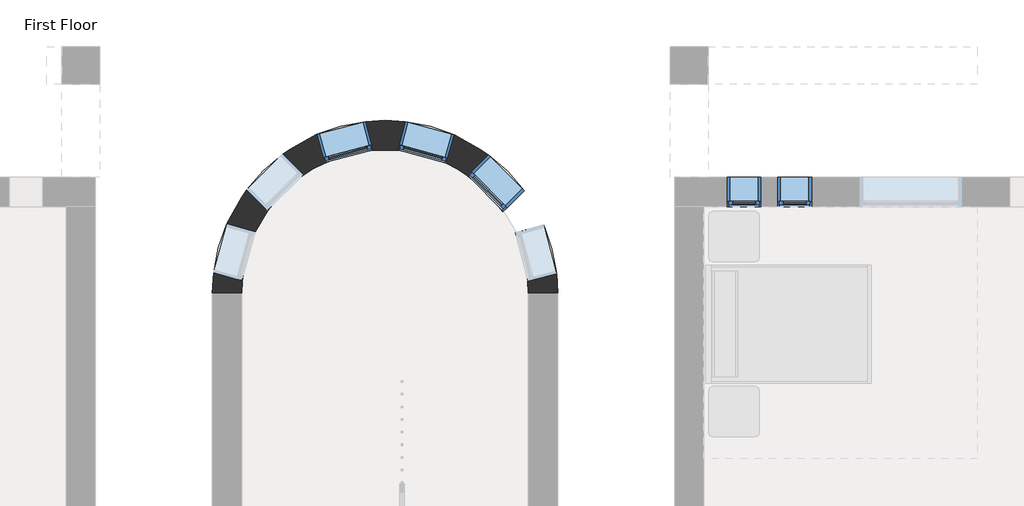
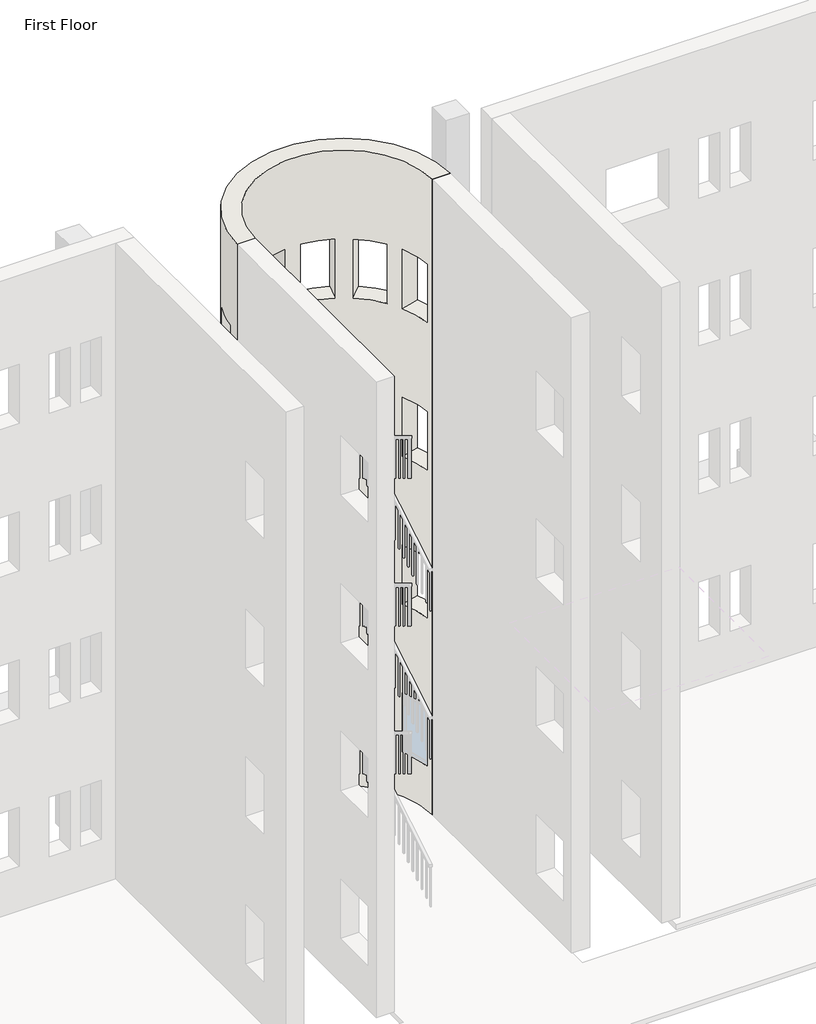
# One storey, part 17 of 23: 5 windows, 1 wall.
"""IFC4 building model written with IfcOpenShell, lengths in millimetres."""

from ifc_helpers import new_model, si_unit, frame, origin, place, context, project, spatial, polyline, circle_curve, transform, mapped, element, save
from ifc_brep_helpers import plane_surface, cylinder_surface, revolved_surface, advanced_brep
from components import window_da97879f, window_60baf983

model = new_model("IFC4")

# Units and contexts
model_context = context("Model", 3, world=origin())
ifc_project = project(units=[si_unit("LENGTHUNIT", "METRE", prefix="MILLI")], contexts=[model_context])

# Site, building, storey
site = spatial("IfcSite", under=ifc_project)
building = spatial("IfcBuilding", under=site)
storey = spatial("IfcBuildingStorey", under=building, Name="First Floor", Elevation=0.0)

# Wall
placement = place(None, origin())
element("IfcWall", 1, ObjectType="Exterior - Brick on Mtl. Stud", at=placement, inside=storey, context=model_context, shape_type="AdvancedBrep", body=[
    advanced_brep(
    [(-12980.9589563, 9227.0316867, 13106.4), (-17143.3839563, 9227.0316867, 13106.4), (-16790.9589563, 9227.0316867, 13106.4), (-13333.3839563, 9227.0316867, 13106.4), (-17143.3839563, 9227.0316867, 0.0), (-12980.9589563, 9227.0316867, 0.0), (-13333.3839563, 9227.0316867, 0.0), (-16790.9589563, 9227.0316867, 0.0), (-13149.9261748, 10048.4715527, 8229.6), (-13149.9261748, 10048.4715527, 7010.4), (-12993.9452701, 9459.1650812, 7010.4), (-12993.9452701, 9459.1650812, 8229.6), (-13816.8383973, 10894.5421191, 8229.6), (-13816.8383973, 10894.5421191, 7010.4), (-13387.1017356, 10462.1781965, 7010.4), (-13387.1017356, 10462.1781965, 8229.6), (-14817.4366072, 11293.8046118, 8229.6), (-14817.4366072, 11293.8046118, 7010.4), (-14229.0917799, 11134.234802, 7010.4), (-14229.0917799, 11134.234802, 8229.6), (-15883.6113224, 11139.2769682, 8229.6), (-15883.6113224, 11139.2769682, 7010.4), (-15294.3048508, 11295.2578729, 7010.4), (-15294.3048508, 11295.2578729, 8229.6), (-16729.6818887, 10472.3647457, 8229.6), (-16729.6818887, 10472.3647457, 7010.4), (-16297.3179661, 10902.1014074, 7010.4), (-16297.3179661, 10902.1014074, 8229.6), (-17128.9443814, 9471.7665358, 8229.6), (-17128.9443814, 9471.7665358, 7010.4), (-16969.3745716, 10060.1113631, 7010.4), (-16969.3745716, 10060.1113631, 8229.6), (-13149.9261748, 10048.4715527, 5181.6), (-13149.9261748, 10048.4715527, 3962.4), (-12993.9452701, 9459.1650812, 3962.4), (-12993.9452701, 9459.1650812, 5181.6), (-13816.8383973, 10894.5421191, 5181.6), (-13816.8383973, 10894.5421191, 3962.4), (-13387.1017356, 10462.1781965, 3962.4), (-13387.1017356, 10462.1781965, 5181.6), (-14817.4366072, 11293.8046118, 5181.6), (-14817.4366072, 11293.8046118, 3962.4), (-14229.0917799, 11134.234802, 3962.4), (-14229.0917799, 11134.234802, 5181.6), (-15883.6113224, 11139.2769682, 5181.6), (-15883.6113224, 11139.2769682, 3962.4), (-15294.3048508, 11295.2578729, 3962.4), (-15294.3048508, 11295.2578729, 5181.6), (-16729.6818887, 10472.3647457, 5181.6), (-16729.6818887, 10472.3647457, 3962.4), (-16297.3179661, 10902.1014074, 3962.4), (-16297.3179661, 10902.1014074, 5181.6), (-17128.9443814, 9471.7665358, 5181.6), (-17128.9443814, 9471.7665358, 3962.4), (-16969.3745716, 10060.1113631, 3962.4), (-16969.3745716, 10060.1113631, 5181.6), (-13149.9261748, 10048.4715527, 11277.6), (-13149.9261748, 10048.4715527, 10058.4), (-12993.9452701, 9459.1650812, 10058.4), (-12993.9452701, 9459.1650812, 11277.6), (-13816.8383973, 10894.5421191, 11277.6), (-13816.8383973, 10894.5421191, 10058.4), (-13387.1017356, 10462.1781965, 10058.4), (-13387.1017356, 10462.1781965, 11277.6), (-14817.4366072, 11293.8046118, 11277.6), (-14817.4366072, 11293.8046118, 10058.4), (-14229.0917799, 11134.234802, 10058.4), (-14229.0917799, 11134.234802, 11277.6), (-15883.6113224, 11139.2769682, 11277.6), (-15883.6113224, 11139.2769682, 10058.4), (-15294.3048508, 11295.2578729, 10058.4), (-15294.3048508, 11295.2578729, 11277.6), (-16729.6818887, 10472.3647457, 11277.6), (-16729.6818887, 10472.3647457, 10058.4), (-16297.3179661, 10902.1014074, 10058.4), (-16297.3179661, 10902.1014074, 11277.6), (-17128.9443814, 9471.7665358, 11277.6), (-17128.9443814, 9471.7665358, 10058.4), (-16969.3745716, 10060.1113631, 10058.4), (-16969.3745716, 10060.1113631, 11277.6), (-13149.9261748, 10048.4715527, 2133.6), (-13149.9261748, 10048.4715527, 914.4), (-12993.9452701, 9459.1650812, 914.4), (-12993.9452701, 9459.1650812, 2133.6), (-13816.8383973, 10894.5421191, 2133.6), (-13816.8383973, 10894.5421191, 914.4), (-13387.1017356, 10462.1781965, 914.4), (-13387.1017356, 10462.1781965, 2133.6), (-14817.4366072, 11293.8046118, 2133.6), (-14817.4366072, 11293.8046118, 914.4), (-14229.0917799, 11134.234802, 914.4), (-14229.0917799, 11134.234802, 2133.6), (-15883.6113224, 11139.2769682, 2133.6), (-15883.6113224, 11139.2769682, 914.4), (-15294.3048508, 11295.2578729, 914.4), (-15294.3048508, 11295.2578729, 2133.6), (-16729.6818887, 10472.3647457, 2133.6), (-16729.6818887, 10472.3647457, 914.4), (-16297.3179661, 10902.1014074, 914.4), (-16297.3179661, 10902.1014074, 2133.6), (-17128.9443814, 9471.7665358, 914.4), (-16969.3745716, 10060.1113631, 914.4), (-16969.3745716, 10060.1113631, 2133.6), (-17128.9443814, 9471.7665358, 2133.6), (-13495.1055834, 9957.1075528, 7010.4), (-13495.1055834, 9957.1075528, 8229.6), (-13339.1246787, 9367.8010813, 8229.6), (-13339.1246787, 9367.8010813, 7010.4), (-14070.090534, 10642.8288698, 7010.4), (-14070.090534, 10642.8288698, 8229.6), (-13640.3538723, 10210.4649472, 8229.6), (-13640.3538723, 10210.4649472, 7010.4), (-14910.9027666, 10949.188475, 7010.4), (-14910.9027666, 10949.188475, 8229.6), (-14322.5579393, 10789.6186653, 8229.6), (-14322.5579393, 10789.6186653, 7010.4), (-15792.2473224, 10794.0975596, 7010.4), (-15792.2473224, 10794.0975596, 8229.6), (-15202.9408509, 10950.0784643, 8229.6), (-15202.9408509, 10950.0784643, 7010.4), (-16477.9686395, 10219.112609, 7010.4), (-16477.9686395, 10219.112609, 8229.6), (-16045.6047169, 10648.8492707, 8229.6), (-16045.6047169, 10648.8492707, 7010.4), (-16784.3282447, 9378.3003764, 7010.4), (-16784.3282447, 9378.3003764, 8229.6), (-16624.7584349, 9966.6452037, 8229.6), (-16624.7584349, 9966.6452037, 7010.4), (-13495.1055834, 9957.1075528, 3962.4), (-13495.1055834, 9957.1075528, 5181.6), (-13339.1246787, 9367.8010813, 5181.6), (-13339.1246787, 9367.8010813, 3962.4), (-14070.090534, 10642.8288698, 3962.4), (-14070.090534, 10642.8288698, 5181.6), (-13640.3538723, 10210.4649472, 5181.6), (-13640.3538723, 10210.4649472, 3962.4), (-14910.9027666, 10949.188475, 3962.4), (-14910.9027666, 10949.188475, 5181.6), (-14322.5579393, 10789.6186653, 5181.6), (-14322.5579393, 10789.6186653, 3962.4), (-15792.2473224, 10794.0975596, 3962.4), (-15792.2473224, 10794.0975596, 5181.6), (-15202.9408509, 10950.0784643, 5181.6), (-15202.9408509, 10950.0784643, 3962.4), (-16477.9686395, 10219.112609, 3962.4), (-16477.9686395, 10219.112609, 5181.6), (-16045.6047169, 10648.8492707, 5181.6), (-16045.6047169, 10648.8492707, 3962.4), (-16784.3282447, 9378.3003764, 3962.4), (-16784.3282447, 9378.3003764, 5181.6), (-16624.7584349, 9966.6452037, 5181.6), (-16624.7584349, 9966.6452037, 3962.4), (-13495.1055834, 9957.1075528, 10058.4), (-13495.1055834, 9957.1075528, 11277.6), (-13339.1246787, 9367.8010813, 11277.6), (-13339.1246787, 9367.8010813, 10058.4), (-14070.090534, 10642.8288698, 10058.4), (-14070.090534, 10642.8288698, 11277.6), (-13640.3538723, 10210.4649472, 11277.6), (-13640.3538723, 10210.4649472, 10058.4), (-14910.9027666, 10949.188475, 10058.4), (-14910.9027666, 10949.188475, 11277.6), (-14322.5579393, 10789.6186653, 11277.6), (-14322.5579393, 10789.6186653, 10058.4), (-15792.2473224, 10794.0975596, 10058.4), (-15792.2473224, 10794.0975596, 11277.6), (-15202.9408509, 10950.0784643, 11277.6), (-15202.9408509, 10950.0784643, 10058.4), (-16477.9686395, 10219.112609, 10058.4), (-16477.9686395, 10219.112609, 11277.6), (-16045.6047169, 10648.8492707, 11277.6), (-16045.6047169, 10648.8492707, 10058.4), (-16784.3282447, 9378.3003764, 10058.4), (-16784.3282447, 9378.3003764, 11277.6), (-16624.7584349, 9966.6452037, 11277.6), (-16624.7584349, 9966.6452037, 10058.4), (-13495.1055834, 9957.1075528, 914.4), (-13495.1055834, 9957.1075528, 2133.6), (-13339.1246787, 9367.8010813, 2133.6), (-13339.1246787, 9367.8010813, 914.4), (-14070.090534, 10642.8288698, 914.4), (-14070.090534, 10642.8288698, 2133.6), (-13640.3538723, 10210.4649472, 2133.6), (-13640.3538723, 10210.4649472, 914.4), (-14910.9027666, 10949.188475, 914.4), (-14910.9027666, 10949.188475, 2133.6), (-14322.5579393, 10789.6186653, 2133.6), (-14322.5579393, 10789.6186653, 914.4), (-15792.2473224, 10794.0975596, 914.4), (-15792.2473224, 10794.0975596, 2133.6), (-15202.9408509, 10950.0784643, 2133.6), (-15202.9408509, 10950.0784643, 914.4), (-16477.9686395, 10219.112609, 914.4), (-16477.9686395, 10219.112609, 2133.6), (-16045.6047169, 10648.8492707, 2133.6), (-16045.6047169, 10648.8492707, 914.4), (-16624.7584349, 9966.6452037, 914.4), (-16784.3282447, 9378.3003764, 914.4), (-16784.3282447, 9378.3003764, 2133.6), (-16624.7584349, 9966.6452037, 2133.6)],
    [
        (0, 1, circle_curve(frame((-15062.1714563, 9227.0316867, 13106.4), z_axis=(0.0, 0.0, 1.0), x_axis=(1.0, 0.0, 0.0)), 2081.2125)),
        (1, 2),
        (2, 3, circle_curve(frame((-15062.1714563, 9227.0316867, 13106.4), z_axis=(0.0, 0.0, -1.0), x_axis=(1.0, 0.0, 0.0)), 1728.7875)),
        (3, 0),
        (4, 5, circle_curve(frame((-15062.1714563, 9227.0316867, 0.0), z_axis=(0.0, 0.0, -1.0), x_axis=(1.0, 0.0, 0.0)), 2081.2125)),
        (5, 6),
        (6, 7, circle_curve(frame((-15062.1714563, 9227.0316867, 0.0), z_axis=(0.0, 0.0, 1.0), x_axis=(1.0, 0.0, 0.0)), 1728.7875)),
        (7, 4),
        (0, 5),
        (4, 1),
        (8, 9),
        (9, 10, circle_curve(frame((-15062.1714563, 9227.0316867, 7010.4), z_axis=(0.0, 0.0, -1.0), x_axis=(1.0, 0.0, 0.0)), 2081.2125)),
        (10, 11),
        (11, 8, circle_curve(frame((-15062.1714563, 9227.0316867, 8229.6), z_axis=(0.0, 0.0, 1.0), x_axis=(1.0, 0.0, 0.0)), 2081.2125)),
        (12, 13),
        (13, 14, circle_curve(frame((-15062.1714563, 9227.0316867, 7010.4), z_axis=(0.0, 0.0, -1.0), x_axis=(1.0, 0.0, 0.0)), 2081.2125)),
        (14, 15),
        (15, 12, circle_curve(frame((-15062.1714563, 9227.0316867, 8229.6), z_axis=(0.0, 0.0, 1.0), x_axis=(1.0, 0.0, 0.0)), 2081.2125)),
        (16, 17),
        (17, 18, circle_curve(frame((-15062.1714563, 9227.0316867, 7010.4), z_axis=(0.0, 0.0, -1.0), x_axis=(1.0, 0.0, 0.0)), 2081.2125)),
        (18, 19),
        (19, 16, circle_curve(frame((-15062.1714563, 9227.0316867, 8229.6), z_axis=(0.0, 0.0, 1.0), x_axis=(1.0, 0.0, 0.0)), 2081.2125)),
        (20, 21),
        (21, 22, circle_curve(frame((-15062.1714563, 9227.0316867, 7010.4), z_axis=(0.0, 0.0, -1.0), x_axis=(1.0, 0.0, 0.0)), 2081.2125)),
        (22, 23),
        (23, 20, circle_curve(frame((-15062.1714563, 9227.0316867, 8229.6), z_axis=(0.0, 0.0, 1.0), x_axis=(1.0, 0.0, 0.0)), 2081.2125)),
        (24, 25),
        (25, 26, circle_curve(frame((-15062.1714563, 9227.0316867, 7010.4), z_axis=(0.0, 0.0, -1.0), x_axis=(1.0, 0.0, 0.0)), 2081.2125)),
        (26, 27),
        (27, 24, circle_curve(frame((-15062.1714563, 9227.0316867, 8229.6), z_axis=(0.0, 0.0, 1.0), x_axis=(1.0, 0.0, 0.0)), 2081.2125)),
        (28, 29),
        (29, 30, circle_curve(frame((-15062.1714563, 9227.0316867, 7010.4), z_axis=(0.0, 0.0, -1.0), x_axis=(1.0, 0.0, 0.0)), 2081.2125)),
        (30, 31),
        (31, 28, circle_curve(frame((-15062.1714563, 9227.0316867, 8229.6), z_axis=(0.0, 0.0, 1.0), x_axis=(1.0, 0.0, 0.0)), 2081.2125)),
        (32, 33),
        (33, 34, circle_curve(frame((-15062.1714563, 9227.0316867, 3962.4), z_axis=(0.0, 0.0, -1.0), x_axis=(1.0, 0.0, 0.0)), 2081.2125)),
        (34, 35),
        (35, 32, circle_curve(frame((-15062.1714563, 9227.0316867, 5181.6), z_axis=(0.0, 0.0, 1.0), x_axis=(1.0, 0.0, 0.0)), 2081.2125)),
        (36, 37),
        (37, 38, circle_curve(frame((-15062.1714563, 9227.0316867, 3962.4), z_axis=(0.0, 0.0, -1.0), x_axis=(1.0, 0.0, 0.0)), 2081.2125)),
        (38, 39),
        (39, 36, circle_curve(frame((-15062.1714563, 9227.0316867, 5181.6), z_axis=(0.0, 0.0, 1.0), x_axis=(1.0, 0.0, 0.0)), 2081.2125)),
        (40, 41),
        (41, 42, circle_curve(frame((-15062.1714563, 9227.0316867, 3962.4), z_axis=(0.0, 0.0, -1.0), x_axis=(1.0, 0.0, 0.0)), 2081.2125)),
        (42, 43),
        (43, 40, circle_curve(frame((-15062.1714563, 9227.0316867, 5181.6), z_axis=(0.0, 0.0, 1.0), x_axis=(1.0, 0.0, 0.0)), 2081.2125)),
        (44, 45),
        (45, 46, circle_curve(frame((-15062.1714563, 9227.0316867, 3962.4), z_axis=(0.0, 0.0, -1.0), x_axis=(1.0, 0.0, 0.0)), 2081.2125)),
        (46, 47),
        (47, 44, circle_curve(frame((-15062.1714563, 9227.0316867, 5181.6), z_axis=(0.0, 0.0, 1.0), x_axis=(1.0, 0.0, 0.0)), 2081.2125)),
        (48, 49),
        (49, 50, circle_curve(frame((-15062.1714563, 9227.0316867, 3962.4), z_axis=(0.0, 0.0, -1.0), x_axis=(1.0, 0.0, 0.0)), 2081.2125)),
        (50, 51),
        (51, 48, circle_curve(frame((-15062.1714563, 9227.0316867, 5181.6), z_axis=(0.0, 0.0, 1.0), x_axis=(1.0, 0.0, 0.0)), 2081.2125)),
        (52, 53),
        (53, 54, circle_curve(frame((-15062.1714563, 9227.0316867, 3962.4), z_axis=(0.0, 0.0, -1.0), x_axis=(1.0, 0.0, 0.0)), 2081.2125)),
        (54, 55),
        (55, 52, circle_curve(frame((-15062.1714563, 9227.0316867, 5181.6), z_axis=(0.0, 0.0, 1.0), x_axis=(1.0, 0.0, 0.0)), 2081.2125)),
        (56, 57),
        (57, 58, circle_curve(frame((-15062.1714563, 9227.0316867, 10058.4), z_axis=(0.0, 0.0, -1.0), x_axis=(1.0, 0.0, 0.0)), 2081.2125)),
        (58, 59),
        (59, 56, circle_curve(frame((-15062.1714563, 9227.0316867, 11277.6), z_axis=(0.0, 0.0, 1.0), x_axis=(1.0, 0.0, 0.0)), 2081.2125)),
        (60, 61),
        (61, 62, circle_curve(frame((-15062.1714563, 9227.0316867, 10058.4), z_axis=(0.0, 0.0, -1.0), x_axis=(1.0, 0.0, 0.0)), 2081.2125)),
        (62, 63),
        (63, 60, circle_curve(frame((-15062.1714563, 9227.0316867, 11277.6), z_axis=(0.0, 0.0, 1.0), x_axis=(1.0, 0.0, 0.0)), 2081.2125)),
        (64, 65),
        (65, 66, circle_curve(frame((-15062.1714563, 9227.0316867, 10058.4), z_axis=(0.0, 0.0, -1.0), x_axis=(1.0, 0.0, 0.0)), 2081.2125)),
        (66, 67),
        (67, 64, circle_curve(frame((-15062.1714563, 9227.0316867, 11277.6), z_axis=(0.0, 0.0, 1.0), x_axis=(1.0, 0.0, 0.0)), 2081.2125)),
        (68, 69),
        (69, 70, circle_curve(frame((-15062.1714563, 9227.0316867, 10058.4), z_axis=(0.0, 0.0, -1.0), x_axis=(1.0, 0.0, 0.0)), 2081.2125)),
        (70, 71),
        (71, 68, circle_curve(frame((-15062.1714563, 9227.0316867, 11277.6), z_axis=(0.0, 0.0, 1.0), x_axis=(1.0, 0.0, 0.0)), 2081.2125)),
        (72, 73),
        (73, 74, circle_curve(frame((-15062.1714563, 9227.0316867, 10058.4), z_axis=(0.0, 0.0, -1.0), x_axis=(1.0, 0.0, 0.0)), 2081.2125)),
        (74, 75),
        (75, 72, circle_curve(frame((-15062.1714563, 9227.0316867, 11277.6), z_axis=(0.0, 0.0, 1.0), x_axis=(1.0, 0.0, 0.0)), 2081.2125)),
        (76, 77),
        (77, 78, circle_curve(frame((-15062.1714563, 9227.0316867, 10058.4), z_axis=(0.0, 0.0, -1.0), x_axis=(1.0, 0.0, 0.0)), 2081.2125)),
        (78, 79),
        (79, 76, circle_curve(frame((-15062.1714563, 9227.0316867, 11277.6), z_axis=(0.0, 0.0, 1.0), x_axis=(1.0, 0.0, 0.0)), 2081.2125)),
        (80, 81),
        (81, 82, circle_curve(frame((-15062.1714563, 9227.0316867, 914.4), z_axis=(0.0, 0.0, -1.0), x_axis=(1.0, 0.0, 0.0)), 2081.2125)),
        (82, 83),
        (83, 80, circle_curve(frame((-15062.1714563, 9227.0316867, 2133.6), z_axis=(0.0, 0.0, 1.0), x_axis=(1.0, 0.0, 0.0)), 2081.2125)),
        (84, 85),
        (85, 86, circle_curve(frame((-15062.1714563, 9227.0316867, 914.4), z_axis=(0.0, 0.0, -1.0), x_axis=(1.0, 0.0, 0.0)), 2081.2125)),
        (86, 87),
        (87, 84, circle_curve(frame((-15062.1714563, 9227.0316867, 2133.6), z_axis=(0.0, 0.0, 1.0), x_axis=(1.0, 0.0, 0.0)), 2081.2125)),
        (88, 89),
        (89, 90, circle_curve(frame((-15062.1714563, 9227.0316867, 914.4), z_axis=(0.0, 0.0, -1.0), x_axis=(1.0, 0.0, 0.0)), 2081.2125)),
        (90, 91),
        (91, 88, circle_curve(frame((-15062.1714563, 9227.0316867, 2133.6), z_axis=(0.0, 0.0, 1.0), x_axis=(1.0, 0.0, 0.0)), 2081.2125)),
        (92, 93),
        (93, 94, circle_curve(frame((-15062.1714563, 9227.0316867, 914.4), z_axis=(0.0, 0.0, -1.0), x_axis=(1.0, 0.0, 0.0)), 2081.2125)),
        (94, 95),
        (95, 92, circle_curve(frame((-15062.1714563, 9227.0316867, 2133.6), z_axis=(0.0, 0.0, 1.0), x_axis=(1.0, 0.0, 0.0)), 2081.2125)),
        (96, 97),
        (97, 98, circle_curve(frame((-15062.1714563, 9227.0316867, 914.4), z_axis=(0.0, 0.0, -1.0), x_axis=(1.0, 0.0, 0.0)), 2081.2125)),
        (98, 99),
        (99, 96, circle_curve(frame((-15062.1714563, 9227.0316867, 2133.6), z_axis=(0.0, 0.0, 1.0), x_axis=(1.0, 0.0, 0.0)), 2081.2125)),
        (100, 101, circle_curve(frame((-15062.1714563, 9227.0316867, 914.4), z_axis=(0.0, 0.0, -1.0), x_axis=(1.0, 0.0, 0.0)), 2081.2125)),
        (101, 102),
        (102, 103, circle_curve(frame((-15062.1714563, 9227.0316867, 2133.6), z_axis=(0.0, 0.0, 1.0), x_axis=(1.0, 0.0, 0.0)), 2081.2125)),
        (103, 100),
        (7, 2),
        (6, 3),
        (104, 105),
        (105, 106, circle_curve(frame((-15062.1714563, 9227.0316867, 8229.6), z_axis=(0.0, 0.0, -1.0), x_axis=(1.0, 0.0, 0.0)), 1728.7875)),
        (106, 107),
        (107, 104, circle_curve(frame((-15062.1714563, 9227.0316867, 7010.4), z_axis=(0.0, 0.0, 1.0), x_axis=(1.0, 0.0, 0.0)), 1728.7875)),
        (108, 109),
        (109, 110, circle_curve(frame((-15062.1714563, 9227.0316867, 8229.6), z_axis=(0.0, 0.0, -1.0), x_axis=(1.0, 0.0, 0.0)), 1728.7875)),
        (110, 111),
        (111, 108, circle_curve(frame((-15062.1714563, 9227.0316867, 7010.4), z_axis=(0.0, 0.0, 1.0), x_axis=(1.0, 0.0, 0.0)), 1728.7875)),
        (112, 113),
        (113, 114, circle_curve(frame((-15062.1714563, 9227.0316867, 8229.6), z_axis=(0.0, 0.0, -1.0), x_axis=(1.0, 0.0, 0.0)), 1728.7875)),
        (114, 115),
        (115, 112, circle_curve(frame((-15062.1714563, 9227.0316867, 7010.4), z_axis=(0.0, 0.0, 1.0), x_axis=(1.0, 0.0, 0.0)), 1728.7875)),
        (116, 117),
        (117, 118, circle_curve(frame((-15062.1714563, 9227.0316867, 8229.6), z_axis=(0.0, 0.0, -1.0), x_axis=(1.0, 0.0, 0.0)), 1728.7875)),
        (118, 119),
        (119, 116, circle_curve(frame((-15062.1714563, 9227.0316867, 7010.4), z_axis=(0.0, 0.0, 1.0), x_axis=(1.0, 0.0, 0.0)), 1728.7875)),
        (120, 121),
        (121, 122, circle_curve(frame((-15062.1714563, 9227.0316867, 8229.6), z_axis=(0.0, 0.0, -1.0), x_axis=(1.0, 0.0, 0.0)), 1728.7875)),
        (122, 123),
        (123, 120, circle_curve(frame((-15062.1714563, 9227.0316867, 7010.4), z_axis=(0.0, 0.0, 1.0), x_axis=(1.0, 0.0, 0.0)), 1728.7875)),
        (124, 125),
        (125, 126, circle_curve(frame((-15062.1714563, 9227.0316867, 8229.6), z_axis=(0.0, 0.0, -1.0), x_axis=(1.0, 0.0, 0.0)), 1728.7875)),
        (126, 127),
        (127, 124, circle_curve(frame((-15062.1714563, 9227.0316867, 7010.4), z_axis=(0.0, 0.0, 1.0), x_axis=(1.0, 0.0, 0.0)), 1728.7875)),
        (128, 129),
        (129, 130, circle_curve(frame((-15062.1714563, 9227.0316867, 5181.6), z_axis=(0.0, 0.0, -1.0), x_axis=(1.0, 0.0, 0.0)), 1728.7875)),
        (130, 131),
        (131, 128, circle_curve(frame((-15062.1714563, 9227.0316867, 3962.4), z_axis=(0.0, 0.0, 1.0), x_axis=(1.0, 0.0, 0.0)), 1728.7875)),
        (132, 133),
        (133, 134, circle_curve(frame((-15062.1714563, 9227.0316867, 5181.6), z_axis=(0.0, 0.0, -1.0), x_axis=(1.0, 0.0, 0.0)), 1728.7875)),
        (134, 135),
        (135, 132, circle_curve(frame((-15062.1714563, 9227.0316867, 3962.4), z_axis=(0.0, 0.0, 1.0), x_axis=(1.0, 0.0, 0.0)), 1728.7875)),
        (136, 137),
        (137, 138, circle_curve(frame((-15062.1714563, 9227.0316867, 5181.6), z_axis=(0.0, 0.0, -1.0), x_axis=(1.0, 0.0, 0.0)), 1728.7875)),
        (138, 139),
        (139, 136, circle_curve(frame((-15062.1714563, 9227.0316867, 3962.4), z_axis=(0.0, 0.0, 1.0), x_axis=(1.0, 0.0, 0.0)), 1728.7875)),
        (140, 141),
        (141, 142, circle_curve(frame((-15062.1714563, 9227.0316867, 5181.6), z_axis=(0.0, 0.0, -1.0), x_axis=(1.0, 0.0, 0.0)), 1728.7875)),
        (142, 143),
        (143, 140, circle_curve(frame((-15062.1714563, 9227.0316867, 3962.4), z_axis=(0.0, 0.0, 1.0), x_axis=(1.0, 0.0, 0.0)), 1728.7875)),
        (144, 145),
        (145, 146, circle_curve(frame((-15062.1714563, 9227.0316867, 5181.6), z_axis=(0.0, 0.0, -1.0), x_axis=(1.0, 0.0, 0.0)), 1728.7875)),
        (146, 147),
        (147, 144, circle_curve(frame((-15062.1714563, 9227.0316867, 3962.4), z_axis=(0.0, 0.0, 1.0), x_axis=(1.0, 0.0, 0.0)), 1728.7875)),
        (148, 149),
        (149, 150, circle_curve(frame((-15062.1714563, 9227.0316867, 5181.6), z_axis=(0.0, 0.0, -1.0), x_axis=(1.0, 0.0, 0.0)), 1728.7875)),
        (150, 151),
        (151, 148, circle_curve(frame((-15062.1714563, 9227.0316867, 3962.4), z_axis=(0.0, 0.0, 1.0), x_axis=(1.0, 0.0, 0.0)), 1728.7875)),
        (152, 153),
        (153, 154, circle_curve(frame((-15062.1714563, 9227.0316867, 11277.6), z_axis=(0.0, 0.0, -1.0), x_axis=(1.0, 0.0, 0.0)), 1728.7875)),
        (154, 155),
        (155, 152, circle_curve(frame((-15062.1714563, 9227.0316867, 10058.4), z_axis=(0.0, 0.0, 1.0), x_axis=(1.0, 0.0, 0.0)), 1728.7875)),
        (156, 157),
        (157, 158, circle_curve(frame((-15062.1714563, 9227.0316867, 11277.6), z_axis=(0.0, 0.0, -1.0), x_axis=(1.0, 0.0, 0.0)), 1728.7875)),
        (158, 159),
        (159, 156, circle_curve(frame((-15062.1714563, 9227.0316867, 10058.4), z_axis=(0.0, 0.0, 1.0), x_axis=(1.0, 0.0, 0.0)), 1728.7875)),
        (160, 161),
        (161, 162, circle_curve(frame((-15062.1714563, 9227.0316867, 11277.6), z_axis=(0.0, 0.0, -1.0), x_axis=(1.0, 0.0, 0.0)), 1728.7875)),
        (162, 163),
        (163, 160, circle_curve(frame((-15062.1714563, 9227.0316867, 10058.4), z_axis=(0.0, 0.0, 1.0), x_axis=(1.0, 0.0, 0.0)), 1728.7875)),
        (164, 165),
        (165, 166, circle_curve(frame((-15062.1714563, 9227.0316867, 11277.6), z_axis=(0.0, 0.0, -1.0), x_axis=(1.0, 0.0, 0.0)), 1728.7875)),
        (166, 167),
        (167, 164, circle_curve(frame((-15062.1714563, 9227.0316867, 10058.4), z_axis=(0.0, 0.0, 1.0), x_axis=(1.0, 0.0, 0.0)), 1728.7875)),
        (168, 169),
        (169, 170, circle_curve(frame((-15062.1714563, 9227.0316867, 11277.6), z_axis=(0.0, 0.0, -1.0), x_axis=(1.0, 0.0, 0.0)), 1728.7875)),
        (170, 171),
        (171, 168, circle_curve(frame((-15062.1714563, 9227.0316867, 10058.4), z_axis=(0.0, 0.0, 1.0), x_axis=(1.0, 0.0, 0.0)), 1728.7875)),
        (172, 173),
        (173, 174, circle_curve(frame((-15062.1714563, 9227.0316867, 11277.6), z_axis=(0.0, 0.0, -1.0), x_axis=(1.0, 0.0, 0.0)), 1728.7875)),
        (174, 175),
        (175, 172, circle_curve(frame((-15062.1714563, 9227.0316867, 10058.4), z_axis=(0.0, 0.0, 1.0), x_axis=(1.0, 0.0, 0.0)), 1728.7875)),
        (176, 177),
        (177, 178, circle_curve(frame((-15062.1714563, 9227.0316867, 2133.6), z_axis=(0.0, 0.0, -1.0), x_axis=(1.0, 0.0, 0.0)), 1728.7875)),
        (178, 179),
        (179, 176, circle_curve(frame((-15062.1714563, 9227.0316867, 914.4), z_axis=(0.0, 0.0, 1.0), x_axis=(1.0, 0.0, 0.0)), 1728.7875)),
        (180, 181),
        (181, 182, circle_curve(frame((-15062.1714563, 9227.0316867, 2133.6), z_axis=(0.0, 0.0, -1.0), x_axis=(1.0, 0.0, 0.0)), 1728.7875)),
        (182, 183),
        (183, 180, circle_curve(frame((-15062.1714563, 9227.0316867, 914.4), z_axis=(0.0, 0.0, 1.0), x_axis=(1.0, 0.0, 0.0)), 1728.7875)),
        (184, 185),
        (185, 186, circle_curve(frame((-15062.1714563, 9227.0316867, 2133.6), z_axis=(0.0, 0.0, -1.0), x_axis=(1.0, 0.0, 0.0)), 1728.7875)),
        (186, 187),
        (187, 184, circle_curve(frame((-15062.1714563, 9227.0316867, 914.4), z_axis=(0.0, 0.0, 1.0), x_axis=(1.0, 0.0, 0.0)), 1728.7875)),
        (188, 189),
        (189, 190, circle_curve(frame((-15062.1714563, 9227.0316867, 2133.6), z_axis=(0.0, 0.0, -1.0), x_axis=(1.0, 0.0, 0.0)), 1728.7875)),
        (190, 191),
        (191, 188, circle_curve(frame((-15062.1714563, 9227.0316867, 914.4), z_axis=(0.0, 0.0, 1.0), x_axis=(1.0, 0.0, 0.0)), 1728.7875)),
        (192, 193),
        (193, 194, circle_curve(frame((-15062.1714563, 9227.0316867, 2133.6), z_axis=(0.0, 0.0, -1.0), x_axis=(1.0, 0.0, 0.0)), 1728.7875)),
        (194, 195),
        (195, 192, circle_curve(frame((-15062.1714563, 9227.0316867, 914.4), z_axis=(0.0, 0.0, 1.0), x_axis=(1.0, 0.0, 0.0)), 1728.7875)),
        (196, 197, circle_curve(frame((-15062.1714563, 9227.0316867, 914.4), z_axis=(0.0, 0.0, 1.0), x_axis=(1.0, 0.0, 0.0)), 1728.7875)),
        (197, 198),
        (198, 199, circle_curve(frame((-15062.1714563, 9227.0316867, 2133.6), z_axis=(0.0, 0.0, -1.0), x_axis=(1.0, 0.0, 0.0)), 1728.7875)),
        (199, 196),
        (8, 105),
        (104, 9),
        (107, 10),
        (106, 11),
        (12, 109),
        (108, 13),
        (111, 14),
        (110, 15),
        (16, 113),
        (112, 17),
        (115, 18),
        (114, 19),
        (20, 117),
        (116, 21),
        (119, 22),
        (118, 23),
        (24, 121),
        (120, 25),
        (123, 26),
        (122, 27),
        (28, 125),
        (124, 29),
        (127, 30),
        (126, 31),
        (32, 129),
        (128, 33),
        (131, 34),
        (130, 35),
        (36, 133),
        (132, 37),
        (135, 38),
        (134, 39),
        (40, 137),
        (136, 41),
        (139, 42),
        (138, 43),
        (44, 141),
        (140, 45),
        (143, 46),
        (142, 47),
        (48, 145),
        (144, 49),
        (147, 50),
        (146, 51),
        (52, 149),
        (148, 53),
        (151, 54),
        (150, 55),
        (56, 153),
        (152, 57),
        (155, 58),
        (154, 59),
        (60, 157),
        (156, 61),
        (159, 62),
        (158, 63),
        (64, 161),
        (160, 65),
        (163, 66),
        (162, 67),
        (68, 165),
        (164, 69),
        (167, 70),
        (166, 71),
        (72, 169),
        (168, 73),
        (171, 74),
        (170, 75),
        (76, 173),
        (172, 77),
        (175, 78),
        (174, 79),
        (80, 177),
        (176, 81),
        (179, 82),
        (178, 83),
        (84, 181),
        (180, 85),
        (183, 86),
        (182, 87),
        (88, 185),
        (184, 89),
        (187, 90),
        (186, 91),
        (92, 189),
        (188, 93),
        (191, 94),
        (190, 95),
        (96, 193),
        (192, 97),
        (195, 98),
        (194, 99),
        (197, 100),
        (103, 198),
        (196, 101),
        (199, 102),
    ],
    [
        plane_surface(frame((-12980.9589563, 9227.0316867, 13106.4), z_axis=(0.0, 0.0, 1.0), x_axis=(0.0, 1.0, 0.0))),
        plane_surface(frame((-12980.9589563, 9227.0316867, 0.0), z_axis=(0.0, 0.0, -1.0), x_axis=(0.0, -1.0, 0.0))),
        cylinder_surface(frame((-15062.1714563, 9227.0316867, 0.0), z_axis=(0.0, 0.0, 1.0), x_axis=(1.0, 0.0, 0.0)), 2081.2125),
        plane_surface(frame((-17143.3839563, 9227.0316867, 13106.4), z_axis=(0.0, -1.0, 0.0), x_axis=(0.0, 0.0, -1.0))),
        revolved_surface(polyline([(-13333.3839563, 9227.0316867, 0.0), (-13333.3839563, 9227.0316867, 13106.4)]), (-15062.1714563, 9227.0316867, 0.0), (0.0, 0.0, -1.0)),
        plane_surface(frame((-13333.3839563, 9227.0316867, 13106.4), z_axis=(0.0, -1.0, 0.0), x_axis=(0.0, 0.0, -1.0))),
        plane_surface(frame((-13149.9261748, 10048.4715527, 8229.6), z_axis=(0.2558741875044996, -0.9667100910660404, 0.0), x_axis=(-0.9667100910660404, -0.2558741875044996, 0.0))),
        plane_surface(frame((-13149.9261748, 10048.4715527, 7010.4), z_axis=(0.0, 0.0, 1.0), x_axis=(-0.9667100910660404, -0.2558741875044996, 0.0))),
        plane_surface(frame((-12993.9452701, 9459.1650812, 7010.4), z_axis=(-0.2558741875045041, 0.9667100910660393, 0.0), x_axis=(-0.9667100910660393, -0.2558741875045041, 0.0))),
        plane_surface(frame((-12993.9452701, 9459.1650812, 8229.6), z_axis=(0.0, 0.0, -1.0000000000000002), x_axis=(-0.9667100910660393, -0.2558741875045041, 0.0))),
        plane_surface(frame((-13816.8383973, 10894.5421191, 8229.6), z_axis=(0.7049485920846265, -0.7092584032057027, 0.0), x_axis=(-0.7092584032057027, -0.7049485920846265, 0.0))),
        plane_surface(frame((-13816.8383973, 10894.5421191, 7010.4), z_axis=(0.0, 0.0, 1.0000000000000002), x_axis=(-0.7092584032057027, -0.7049485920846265, 0.0))),
        plane_surface(frame((-13387.1017356, 10462.1781965, 7010.4), z_axis=(-0.7049485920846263, 0.7092584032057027, 0.0), x_axis=(-0.7092584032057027, -0.7049485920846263, 0.0))),
        plane_surface(frame((-13387.1017356, 10462.1781965, 8229.6), z_axis=(0.0, 0.0, -1.0000000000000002), x_axis=(-0.7092584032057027, -0.7049485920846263, 0.0))),
        plane_surface(frame((-14817.4366072, 11293.8046118, 8229.6), z_axis=(0.9651325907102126, -0.26176149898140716, 0.0), x_axis=(-0.26176149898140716, -0.9651325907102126, 0.0))),
        plane_surface(frame((-14817.4366072, 11293.8046118, 7010.4), z_axis=(0.0, 0.0, 1.0), x_axis=(-0.26176149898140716, -0.9651325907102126, 0.0))),
        plane_surface(frame((-14229.0917799, 11134.234802, 7010.4), z_axis=(-0.965132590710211, 0.2617614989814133, 0.0), x_axis=(-0.2617614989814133, -0.965132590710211, 0.0))),
        plane_surface(frame((-14229.0917799, 11134.234802, 8229.6), z_axis=(0.0, 0.0, -1.0), x_axis=(-0.2617614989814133, -0.965132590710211, 0.0))),
        plane_surface(frame((-15883.6113224, 11139.2769682, 8229.6), z_axis=(0.9667100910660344, 0.25587418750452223, 0.0), x_axis=(0.25587418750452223, -0.9667100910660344, 0.0))),
        plane_surface(frame((-15883.6113224, 11139.2769682, 7010.4), z_axis=(0.0, 0.0, 1.0), x_axis=(0.25587418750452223, -0.9667100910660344, 0.0))),
        plane_surface(frame((-15294.3048508, 11295.2578729, 7010.4), z_axis=(-0.9667100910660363, -0.25587418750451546, 0.0), x_axis=(0.25587418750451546, -0.9667100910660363, 0.0))),
        plane_surface(frame((-15294.3048508, 11295.2578729, 8229.6), z_axis=(0.0, 0.0, -1.0000000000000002), x_axis=(0.25587418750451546, -0.9667100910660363, 0.0))),
        plane_surface(frame((-16729.6818887, 10472.3647457, 8229.6), z_axis=(0.7092584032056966, 0.7049485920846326, 0.0), x_axis=(0.7049485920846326, -0.7092584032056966, 0.0))),
        plane_surface(frame((-16729.6818887, 10472.3647457, 7010.4), z_axis=(0.0, 0.0, 1.0), x_axis=(0.7049485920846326, -0.7092584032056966, 0.0))),
        plane_surface(frame((-16297.3179661, 10902.1014074, 7010.4), z_axis=(-0.7092584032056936, -0.7049485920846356, 0.0), x_axis=(0.7049485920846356, -0.7092584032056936, 0.0))),
        plane_surface(frame((-16297.3179661, 10902.1014074, 8229.6), z_axis=(0.0, 0.0, -1.0), x_axis=(0.7049485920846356, -0.7092584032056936, 0.0))),
        plane_surface(frame((-17128.9443814, 9471.7665358, 8229.6), z_axis=(0.26176149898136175, 0.965132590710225, 0.0), x_axis=(0.965132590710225, -0.26176149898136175, 0.0))),
        plane_surface(frame((-17128.9443814, 9471.7665358, 7010.4), z_axis=(0.0, 0.0, 1.0), x_axis=(0.9651325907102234, -0.2617614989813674, 0.0))),
        plane_surface(frame((-16969.3745716, 10060.1113631, 7010.4), z_axis=(-0.261761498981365, -0.9651325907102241, 0.0), x_axis=(0.9651325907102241, -0.261761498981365, 0.0))),
        plane_surface(frame((-16969.3745716, 10060.1113631, 8229.6), z_axis=(0.0, 0.0, -1.0), x_axis=(0.9651325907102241, -0.261761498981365, 0.0))),
        plane_surface(frame((-13149.9261748, 10048.4715527, 5181.6), z_axis=(0.2558741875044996, -0.9667100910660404, 0.0), x_axis=(-0.9667100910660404, -0.2558741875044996, 0.0))),
        plane_surface(frame((-13149.9261748, 10048.4715527, 3962.4), z_axis=(0.0, 0.0, 1.0), x_axis=(-0.9667100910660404, -0.2558741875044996, 0.0))),
        plane_surface(frame((-12993.9452701, 9459.1650812, 3962.4), z_axis=(-0.2558741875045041, 0.9667100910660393, 0.0), x_axis=(-0.9667100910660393, -0.2558741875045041, 0.0))),
        plane_surface(frame((-12993.9452701, 9459.1650812, 5181.6), z_axis=(0.0, 0.0, -1.0000000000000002), x_axis=(-0.9667100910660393, -0.2558741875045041, 0.0))),
        plane_surface(frame((-13816.8383973, 10894.5421191, 5181.6), z_axis=(0.7049485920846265, -0.7092584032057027, 0.0), x_axis=(-0.7092584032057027, -0.7049485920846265, 0.0))),
        plane_surface(frame((-13816.8383973, 10894.5421191, 3962.4), z_axis=(0.0, 0.0, 1.0000000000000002), x_axis=(-0.7092584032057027, -0.7049485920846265, 0.0))),
        plane_surface(frame((-13387.1017356, 10462.1781965, 3962.4), z_axis=(-0.7049485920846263, 0.7092584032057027, 0.0), x_axis=(-0.7092584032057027, -0.7049485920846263, 0.0))),
        plane_surface(frame((-13387.1017356, 10462.1781965, 5181.6), z_axis=(0.0, 0.0, -1.0000000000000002), x_axis=(-0.7092584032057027, -0.7049485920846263, 0.0))),
        plane_surface(frame((-14817.4366072, 11293.8046118, 5181.6), z_axis=(0.9651325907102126, -0.26176149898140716, 0.0), x_axis=(-0.26176149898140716, -0.9651325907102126, 0.0))),
        plane_surface(frame((-14817.4366072, 11293.8046118, 3962.4), z_axis=(0.0, 0.0, 1.0), x_axis=(-0.26176149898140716, -0.9651325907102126, 0.0))),
        plane_surface(frame((-14229.0917799, 11134.234802, 3962.4), z_axis=(-0.965132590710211, 0.2617614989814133, 0.0), x_axis=(-0.2617614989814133, -0.965132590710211, 0.0))),
        plane_surface(frame((-14229.0917799, 11134.234802, 5181.6), z_axis=(0.0, 0.0, -1.0), x_axis=(-0.2617614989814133, -0.965132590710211, 0.0))),
        plane_surface(frame((-15883.6113224, 11139.2769682, 5181.6), z_axis=(0.9667100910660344, 0.25587418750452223, 0.0), x_axis=(0.25587418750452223, -0.9667100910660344, 0.0))),
        plane_surface(frame((-15883.6113224, 11139.2769682, 3962.4), z_axis=(0.0, 0.0, 1.0), x_axis=(0.25587418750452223, -0.9667100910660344, 0.0))),
        plane_surface(frame((-15294.3048508, 11295.2578729, 3962.4), z_axis=(-0.9667100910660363, -0.25587418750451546, 0.0), x_axis=(0.25587418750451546, -0.9667100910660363, 0.0))),
        plane_surface(frame((-15294.3048508, 11295.2578729, 5181.6), z_axis=(0.0, 0.0, -1.0000000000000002), x_axis=(0.25587418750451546, -0.9667100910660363, 0.0))),
        plane_surface(frame((-16729.6818887, 10472.3647457, 5181.6), z_axis=(0.7092584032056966, 0.7049485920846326, 0.0), x_axis=(0.7049485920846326, -0.7092584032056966, 0.0))),
        plane_surface(frame((-16729.6818887, 10472.3647457, 3962.4), z_axis=(0.0, 0.0, 1.0), x_axis=(0.7049485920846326, -0.7092584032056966, 0.0))),
        plane_surface(frame((-16297.3179661, 10902.1014074, 3962.4), z_axis=(-0.7092584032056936, -0.7049485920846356, 0.0), x_axis=(0.7049485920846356, -0.7092584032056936, 0.0))),
        plane_surface(frame((-16297.3179661, 10902.1014074, 5181.6), z_axis=(0.0, 0.0, -1.0), x_axis=(0.7049485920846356, -0.7092584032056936, 0.0))),
        plane_surface(frame((-17128.9443814, 9471.7665358, 5181.6), z_axis=(0.26176149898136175, 0.965132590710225, 0.0), x_axis=(0.965132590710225, -0.26176149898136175, 0.0))),
        plane_surface(frame((-17128.9443814, 9471.7665358, 3962.4), z_axis=(0.0, 0.0, 1.0), x_axis=(0.9651325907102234, -0.2617614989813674, 0.0))),
        plane_surface(frame((-16969.3745716, 10060.1113631, 3962.4), z_axis=(-0.261761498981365, -0.9651325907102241, 0.0), x_axis=(0.9651325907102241, -0.261761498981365, 0.0))),
        plane_surface(frame((-16969.3745716, 10060.1113631, 5181.6), z_axis=(0.0, 0.0, -1.0), x_axis=(0.9651325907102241, -0.261761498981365, 0.0))),
        plane_surface(frame((-13149.9261748, 10048.4715527, 11277.6), z_axis=(0.2558741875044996, -0.9667100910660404, 0.0), x_axis=(-0.9667100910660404, -0.2558741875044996, 0.0))),
        plane_surface(frame((-13149.9261748, 10048.4715527, 10058.4), z_axis=(0.0, 0.0, 1.0), x_axis=(-0.9667100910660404, -0.2558741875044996, 0.0))),
        plane_surface(frame((-12993.9452701, 9459.1650812, 10058.4), z_axis=(-0.2558741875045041, 0.9667100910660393, 0.0), x_axis=(-0.9667100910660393, -0.2558741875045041, 0.0))),
        plane_surface(frame((-12993.9452701, 9459.1650812, 11277.6), z_axis=(0.0, 0.0, -1.0000000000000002), x_axis=(-0.9667100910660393, -0.2558741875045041, 0.0))),
        plane_surface(frame((-13816.8383973, 10894.5421191, 11277.6), z_axis=(0.7049485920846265, -0.7092584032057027, 0.0), x_axis=(-0.7092584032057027, -0.7049485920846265, 0.0))),
        plane_surface(frame((-13816.8383973, 10894.5421191, 10058.4), z_axis=(0.0, 0.0, 1.0000000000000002), x_axis=(-0.7092584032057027, -0.7049485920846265, 0.0))),
        plane_surface(frame((-13387.1017356, 10462.1781965, 10058.4), z_axis=(-0.7049485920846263, 0.7092584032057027, 0.0), x_axis=(-0.7092584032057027, -0.7049485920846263, 0.0))),
        plane_surface(frame((-13387.1017356, 10462.1781965, 11277.6), z_axis=(0.0, 0.0, -1.0000000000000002), x_axis=(-0.7092584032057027, -0.7049485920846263, 0.0))),
        plane_surface(frame((-14817.4366072, 11293.8046118, 11277.6), z_axis=(0.9651325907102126, -0.26176149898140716, 0.0), x_axis=(-0.26176149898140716, -0.9651325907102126, 0.0))),
        plane_surface(frame((-14817.4366072, 11293.8046118, 10058.4), z_axis=(0.0, 0.0, 1.0), x_axis=(-0.26176149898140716, -0.9651325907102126, 0.0))),
        plane_surface(frame((-14229.0917799, 11134.234802, 10058.4), z_axis=(-0.965132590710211, 0.2617614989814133, 0.0), x_axis=(-0.2617614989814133, -0.965132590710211, 0.0))),
        plane_surface(frame((-14229.0917799, 11134.234802, 11277.6), z_axis=(0.0, 0.0, -1.0), x_axis=(-0.2617614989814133, -0.965132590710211, 0.0))),
        plane_surface(frame((-15883.6113224, 11139.2769682, 11277.6), z_axis=(0.9667100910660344, 0.25587418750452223, 0.0), x_axis=(0.25587418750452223, -0.9667100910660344, 0.0))),
        plane_surface(frame((-15883.6113224, 11139.2769682, 10058.4), z_axis=(0.0, 0.0, 1.0), x_axis=(0.25587418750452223, -0.9667100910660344, 0.0))),
        plane_surface(frame((-15294.3048508, 11295.2578729, 10058.4), z_axis=(-0.9667100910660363, -0.25587418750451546, 0.0), x_axis=(0.25587418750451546, -0.9667100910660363, 0.0))),
        plane_surface(frame((-15294.3048508, 11295.2578729, 11277.6), z_axis=(0.0, 0.0, -1.0000000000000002), x_axis=(0.25587418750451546, -0.9667100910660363, 0.0))),
        plane_surface(frame((-16729.6818887, 10472.3647457, 11277.6), z_axis=(0.7092584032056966, 0.7049485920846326, 0.0), x_axis=(0.7049485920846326, -0.7092584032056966, 0.0))),
        plane_surface(frame((-16729.6818887, 10472.3647457, 10058.4), z_axis=(0.0, 0.0, 1.0), x_axis=(0.7049485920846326, -0.7092584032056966, 0.0))),
        plane_surface(frame((-16297.3179661, 10902.1014074, 10058.4), z_axis=(-0.7092584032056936, -0.7049485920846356, 0.0), x_axis=(0.7049485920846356, -0.7092584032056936, 0.0))),
        plane_surface(frame((-16297.3179661, 10902.1014074, 11277.6), z_axis=(0.0, 0.0, -1.0), x_axis=(0.7049485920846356, -0.7092584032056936, 0.0))),
        plane_surface(frame((-17128.9443814, 9471.7665358, 11277.6), z_axis=(0.26176149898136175, 0.965132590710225, 0.0), x_axis=(0.965132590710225, -0.26176149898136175, 0.0))),
        plane_surface(frame((-17128.9443814, 9471.7665358, 10058.4), z_axis=(0.0, 0.0, 1.0), x_axis=(0.9651325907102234, -0.2617614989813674, 0.0))),
        plane_surface(frame((-16969.3745716, 10060.1113631, 10058.4), z_axis=(-0.261761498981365, -0.9651325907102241, 0.0), x_axis=(0.9651325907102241, -0.261761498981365, 0.0))),
        plane_surface(frame((-16969.3745716, 10060.1113631, 11277.6), z_axis=(0.0, 0.0, -1.0), x_axis=(0.9651325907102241, -0.261761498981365, 0.0))),
        plane_surface(frame((-13149.9261748, 10048.4715527, 2133.6), z_axis=(0.2558741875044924, -0.9667100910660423, 0.0), x_axis=(-0.9667100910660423, -0.2558741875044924, 0.0))),
        plane_surface(frame((-13149.9261748, 10048.4715527, 914.4), z_axis=(0.0, 0.0, 1.0), x_axis=(-0.9667100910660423, -0.2558741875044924, 0.0))),
        plane_surface(frame((-12993.9452701, 9459.1650812, 914.4), z_axis=(-0.2558741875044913, 0.9667100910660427, 0.0), x_axis=(-0.9667100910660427, -0.2558741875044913, 0.0))),
        plane_surface(frame((-12993.9452701, 9459.1650812, 2133.6), z_axis=(0.0, 0.0, -1.0), x_axis=(-0.9667100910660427, -0.2558741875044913, 0.0))),
        plane_surface(frame((-13816.8383973, 10894.5421191, 2133.6), z_axis=(0.7049485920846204, -0.7092584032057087, 0.0), x_axis=(-0.7092584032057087, -0.7049485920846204, 0.0))),
        plane_surface(frame((-13816.8383973, 10894.5421191, 914.4), z_axis=(0.0, 0.0, 1.0000000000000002), x_axis=(-0.7092584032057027, -0.7049485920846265, 0.0))),
        plane_surface(frame((-13387.1017356, 10462.1781965, 914.4), z_axis=(-0.7049485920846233, 0.7092584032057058, 0.0), x_axis=(-0.7092584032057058, -0.7049485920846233, 0.0))),
        plane_surface(frame((-13387.1017356, 10462.1781965, 2133.6), z_axis=(0.0, 0.0, -1.0000000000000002), x_axis=(-0.7092584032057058, -0.7049485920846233, 0.0))),
        plane_surface(frame((-14817.4366072, 11293.8046118, 2133.6), z_axis=(0.9651325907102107, -0.2617614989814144, 0.0), x_axis=(-0.2617614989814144, -0.9651325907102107, 0.0))),
        plane_surface(frame((-14817.4366072, 11293.8046118, 914.4), z_axis=(0.0, 0.0, 1.0), x_axis=(-0.26176149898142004, -0.9651325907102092, 0.0))),
        plane_surface(frame((-14229.0917799, 11134.234802, 914.4), z_axis=(-0.9651325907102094, 0.2617614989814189, 0.0), x_axis=(-0.2617614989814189, -0.9651325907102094, 0.0))),
        plane_surface(frame((-14229.0917799, 11134.234802, 2133.6), z_axis=(0.0, 0.0, -1.0), x_axis=(-0.2617614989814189, -0.9651325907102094, 0.0))),
        plane_surface(frame((-15883.6113224, 11139.2769682, 2133.6), z_axis=(0.9667100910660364, 0.2558741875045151, 0.0), x_axis=(0.2558741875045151, -0.9667100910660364, 0.0))),
        plane_surface(frame((-15883.6113224, 11139.2769682, 914.4), z_axis=(0.0, 0.0, 1.0000000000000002), x_axis=(0.2558741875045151, -0.9667100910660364, 0.0))),
        plane_surface(frame((-15294.3048508, 11295.2578729, 914.4), z_axis=(-0.9667100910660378, -0.2558741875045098, 0.0), x_axis=(0.2558741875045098, -0.9667100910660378, 0.0))),
        plane_surface(frame((-15294.3048508, 11295.2578729, 2133.6), z_axis=(0.0, 0.0, -1.0), x_axis=(0.2558741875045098, -0.9667100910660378, 0.0))),
        plane_surface(frame((-15655.3402344, 9391.4549392, 2133.6), z_axis=(0.7092584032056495, 0.70494859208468, 0.0), x_axis=(-0.70494859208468, 0.7092584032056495, 0.0))),
        plane_surface(frame((-15655.3402344, 9391.4549392, 914.4), z_axis=(0.0, 0.0, 1.0), x_axis=(-0.70494859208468, 0.7092584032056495, 0.0))),
        plane_surface(frame((-15222.9763118, 9821.191601, 914.4), z_axis=(-0.7092584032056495, -0.70494859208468, 0.0), x_axis=(-0.70494859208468, 0.7092584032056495, 0.0))),
        plane_surface(frame((-15222.9763118, 9821.191601, 2133.6), z_axis=(0.0, 0.0, -1.0), x_axis=(-0.70494859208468, 0.7092584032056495, 0.0))),
        plane_surface(frame((-15658.0823131, 9072.8420113, 2133.6), z_axis=(0.26176149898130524, 0.9651325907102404, 0.0), x_axis=(-0.9651325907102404, 0.26176149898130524, 0.0))),
        plane_surface(frame((-15658.0823131, 9072.8420113, 914.4), z_axis=(0.0, 0.0, 1.0000000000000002), x_axis=(-0.9651325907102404, 0.26176149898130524, 0.0))),
        plane_surface(frame((-15498.5125034, 9661.1868386, 914.4), z_axis=(-0.26176149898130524, -0.9651325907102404, 0.0), x_axis=(-0.9651325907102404, 0.26176149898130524, 0.0))),
        plane_surface(frame((-15498.5125034, 9661.1868386, 2133.6), z_axis=(0.0, 0.0, -1.0000000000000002), x_axis=(-0.9651325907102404, 0.26176149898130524, 0.0))),
    ],
    [
        (0, [[1, 2, 3, 4]]),
        (1, [[5, 6, 7, 8]]),
        (2, [[-1, 9, -5, 10], [11, 12, 13, 14], [15, 16, 17, 18], [19, 20, 21, 22], [23, 24, 25, 26], [27, 28, 29, 30], [31, 32, 33, 34], [35, 36, 37, 38], [39, 40, 41, 42], [43, 44, 45, 46], [47, 48, 49, 50], [51, 52, 53, 54], [55, 56, 57, 58], [59, 60, 61, 62], [63, 64, 65, 66], [67, 68, 69, 70], [71, 72, 73, 74], [75, 76, 77, 78], [79, 80, 81, 82], [83, 84, 85, 86], [87, 88, 89, 90], [91, 92, 93, 94], [95, 96, 97, 98], [99, 100, 101, 102], [103, 104, 105, 106]]),
        (3, [[-2, -10, -8, 107]]),
        (4, [[-3, -107, -7, 108], [109, 110, 111, 112], [113, 114, 115, 116], [117, 118, 119, 120], [121, 122, 123, 124], [125, 126, 127, 128], [129, 130, 131, 132], [133, 134, 135, 136], [137, 138, 139, 140], [141, 142, 143, 144], [145, 146, 147, 148], [149, 150, 151, 152], [153, 154, 155, 156], [157, 158, 159, 160], [161, 162, 163, 164], [165, 166, 167, 168], [169, 170, 171, 172], [173, 174, 175, 176], [177, 178, 179, 180], [181, 182, 183, 184], [185, 186, 187, 188], [189, 190, 191, 192], [193, 194, 195, 196], [197, 198, 199, 200], [201, 202, 203, 204]]),
        (5, [[-4, -108, -6, -9]]),
        (6, [[-11, 205, -109, 206]]),
        (7, [[-12, -206, -112, 207]]),
        (8, [[-13, -207, -111, 208]]),
        (9, [[-14, -208, -110, -205]]),
        (10, [[-15, 209, -113, 210]]),
        (11, [[-16, -210, -116, 211]]),
        (12, [[-17, -211, -115, 212]]),
        (13, [[-18, -212, -114, -209]]),
        (14, [[-19, 213, -117, 214]]),
        (15, [[-20, -214, -120, 215]]),
        (16, [[-21, -215, -119, 216]]),
        (17, [[-22, -216, -118, -213]]),
        (18, [[-23, 217, -121, 218]]),
        (19, [[-24, -218, -124, 219]]),
        (20, [[-25, -219, -123, 220]]),
        (21, [[-26, -220, -122, -217]]),
        (22, [[-27, 221, -125, 222]]),
        (23, [[-28, -222, -128, 223]]),
        (24, [[-29, -223, -127, 224]]),
        (25, [[-30, -224, -126, -221]]),
        (26, [[-31, 225, -129, 226]]),
        (27, [[-32, -226, -132, 227]]),
        (28, [[-33, -227, -131, 228]]),
        (29, [[-34, -228, -130, -225]]),
        (30, [[-35, 229, -133, 230]]),
        (31, [[-36, -230, -136, 231]]),
        (32, [[-37, -231, -135, 232]]),
        (33, [[-38, -232, -134, -229]]),
        (34, [[-39, 233, -137, 234]]),
        (35, [[-40, -234, -140, 235]]),
        (36, [[-41, -235, -139, 236]]),
        (37, [[-42, -236, -138, -233]]),
        (38, [[-43, 237, -141, 238]]),
        (39, [[-44, -238, -144, 239]]),
        (40, [[-45, -239, -143, 240]]),
        (41, [[-46, -240, -142, -237]]),
        (42, [[-47, 241, -145, 242]]),
        (43, [[-48, -242, -148, 243]]),
        (44, [[-49, -243, -147, 244]]),
        (45, [[-50, -244, -146, -241]]),
        (46, [[-51, 245, -149, 246]]),
        (47, [[-52, -246, -152, 247]]),
        (48, [[-53, -247, -151, 248]]),
        (49, [[-54, -248, -150, -245]]),
        (50, [[-55, 249, -153, 250]]),
        (51, [[-56, -250, -156, 251]]),
        (52, [[-57, -251, -155, 252]]),
        (53, [[-58, -252, -154, -249]]),
        (54, [[-59, 253, -157, 254]]),
        (55, [[-60, -254, -160, 255]]),
        (56, [[-61, -255, -159, 256]]),
        (57, [[-62, -256, -158, -253]]),
        (58, [[-63, 257, -161, 258]]),
        (59, [[-64, -258, -164, 259]]),
        (60, [[-65, -259, -163, 260]]),
        (61, [[-66, -260, -162, -257]]),
        (62, [[-67, 261, -165, 262]]),
        (63, [[-68, -262, -168, 263]]),
        (64, [[-69, -263, -167, 264]]),
        (65, [[-70, -264, -166, -261]]),
        (66, [[-71, 265, -169, 266]]),
        (67, [[-72, -266, -172, 267]]),
        (68, [[-73, -267, -171, 268]]),
        (69, [[-74, -268, -170, -265]]),
        (70, [[-75, 269, -173, 270]]),
        (71, [[-76, -270, -176, 271]]),
        (72, [[-77, -271, -175, 272]]),
        (73, [[-78, -272, -174, -269]]),
        (74, [[-79, 273, -177, 274]]),
        (75, [[-80, -274, -180, 275]]),
        (76, [[-81, -275, -179, 276]]),
        (77, [[-82, -276, -178, -273]]),
        (78, [[-83, 277, -181, 278]]),
        (79, [[-84, -278, -184, 279]]),
        (80, [[-85, -279, -183, 280]]),
        (81, [[-86, -280, -182, -277]]),
        (82, [[-87, 281, -185, 282]]),
        (83, [[-88, -282, -188, 283]]),
        (84, [[-89, -283, -187, 284]]),
        (85, [[-90, -284, -186, -281]]),
        (86, [[-91, 285, -189, 286]]),
        (87, [[-92, -286, -192, 287]]),
        (88, [[-93, -287, -191, 288]]),
        (89, [[-94, -288, -190, -285]]),
        (90, [[-95, 289, -193, 290]]),
        (91, [[-96, -290, -196, 291]]),
        (92, [[-97, -291, -195, 292]]),
        (93, [[-98, -292, -194, -289]]),
        (94, [[293, -197, 294, -99]]),
        (95, [[-294, -200, 295, -100]]),
        (96, [[-295, -199, 296, -101]]),
        (97, [[-293, -102, -296, -198]]),
        (98, [[297, -106, 298, -202]]),
        (99, [[-297, -201, 299, -103]]),
        (100, [[-299, -204, 300, -104]]),
        (101, [[-300, -203, -298, -105]]),
    ],
),
])

# Windows
window_shape = window_da97879f(model_context)
element("IfcWindow", 2, ObjectType="Fixed : 16\" x 48\"", at=placement, inside=storey, context=model_context, shape_type="MappedRepresentation", body=[
    mapped(window_shape, transform((-10771.1589563, 10446.2316867, 0.0), x_axis=(-1.0, 0.0, 0.0), y_axis=(0.0, -1.0, 0.0), z_axis=(0.0, 0.0, 1.0))),
])
element("IfcWindow", 3, ObjectType="Fixed : 16\" x 48\"", at=placement, inside=storey, context=model_context, shape_type="MappedRepresentation", body=[
    mapped(window_shape, transform((-10161.5589563, 10446.2316867, 0.0), x_axis=(-1.0, 0.0, 0.0), y_axis=(0.0, -1.0, 0.0), z_axis=(0.0, 0.0, 1.0))),
])
window_2_shape = window_60baf983(model_context)
element("IfcWindow", 4, ObjectType="Fixed : 24\" x 48\"", at=placement, inside=storey, context=model_context, shape_type="MappedRepresentation", body=[
    mapped(window_2_shape, transform((-15580.7015108, 11037.1722121, 0.0), x_axis=(-0.96671009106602, -0.25587418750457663, 0.0), y_axis=(0.25587418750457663, -0.96671009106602, 0.0), z_axis=(0.0, 0.0, 1.0))),
])
element("IfcWindow", 5, ObjectType="Fixed : 24\" x 48\"", at=placement, inside=storey, context=model_context, shape_type="MappedRepresentation", body=[
    mapped(window_2_shape, transform((-14606.1613934, 11053.9243933, 0.0), x_axis=(-0.9651325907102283, 0.2617614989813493, 0.0), y_axis=(-0.2617614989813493, -0.9651325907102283, 0.0), z_axis=(0.0, 0.0, 1.0))),
])
element("IfcWindow", 6, ObjectType="Fixed : 24\" x 48\"", at=placement, inside=storey, context=model_context, shape_type="MappedRepresentation", body=[
    mapped(window_2_shape, transform((-13753.8088042, 10581.1621492, 0.0), x_axis=(-0.7049485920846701, 0.7092584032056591, 0.0), y_axis=(-0.7092584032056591, -0.7049485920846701, 0.0), z_axis=(0.0, 0.0, 1.0))),
])

save(model, "model.ifc")
